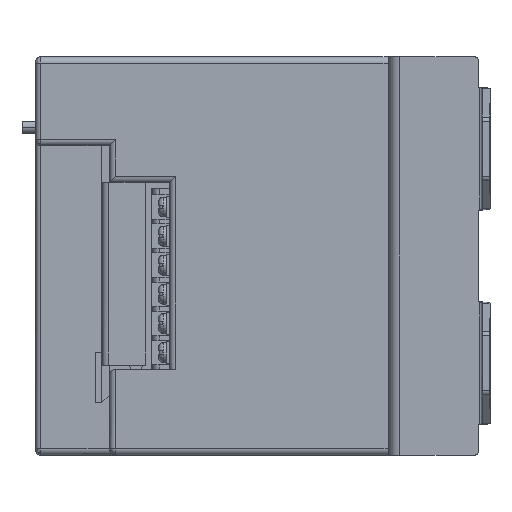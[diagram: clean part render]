
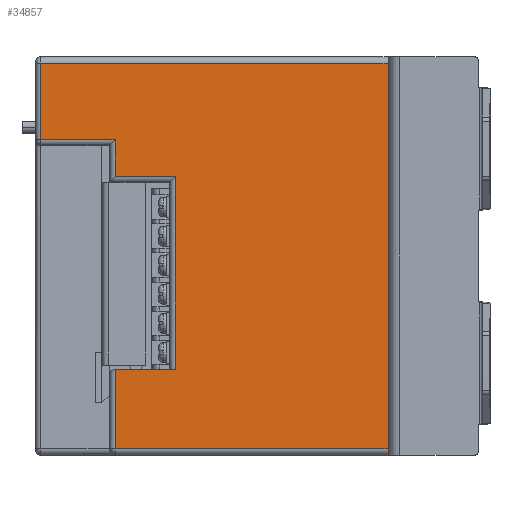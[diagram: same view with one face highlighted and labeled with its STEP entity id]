
A CAD part, left-side view. The second image highlights one B-rep face of the part: STEP entity #34857.
In plain terms, the highlighted planar face has unit normal (-1, 0, 0).
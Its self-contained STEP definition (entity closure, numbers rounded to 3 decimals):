
#503 = LINE ( 'NONE', #47137, #16502 ) ;
#1789 = DIRECTION ( 'NONE',  ( 0., 0., 1. ) ) ;
#1972 = CARTESIAN_POINT ( 'NONE',  ( -194.269, 81.353, 197.607 ) ) ;
#4997 = ORIENTED_EDGE ( 'NONE', *, *, #60277, .F. ) ;
#5102 = AXIS2_PLACEMENT_3D ( 'NONE', #30474, #53390, #30153 ) ;
#5256 = ORIENTED_EDGE ( 'NONE', *, *, #22977, .F. ) ;
#5616 = VERTEX_POINT ( 'NONE', #59180 ) ;
#5759 = VECTOR ( 'NONE', #21094, 1000. ) ;
#6404 = LINE ( 'NONE', #57595, #30422 ) ;
#6637 = CARTESIAN_POINT ( 'NONE',  ( -194.269, -33.647, 197.607 ) ) ;
#7313 = ORIENTED_EDGE ( 'NONE', *, *, #46161, .F. ) ;
#7765 = LINE ( 'NONE', #16984, #47623 ) ;
#8096 = VERTEX_POINT ( 'NONE', #56234 ) ;
#9457 = VERTEX_POINT ( 'NONE', #45867 ) ;
#9579 = VECTOR ( 'NONE', #1789, 1000. ) ;
#10552 = EDGE_LOOP ( 'NONE', ( #5256, #32384, #31850, #11113, #52570, #4997, #53705, #37549, #19727, #7313 ) ) ;
#11113 = ORIENTED_EDGE ( 'NONE', *, *, #21047, .F. ) ;
#11383 = DIRECTION ( 'NONE',  ( 0., 0., 1. ) ) ;
#11761 = LINE ( 'NONE', #21878, #22144 ) ;
#13123 = LINE ( 'NONE', #59098, #59493 ) ;
#15950 = CARTESIAN_POINT ( 'NONE',  ( -194.269, 55.353, 71.607 ) ) ;
#16414 = VECTOR ( 'NONE', #58044, 1000. ) ;
#16502 = VECTOR ( 'NONE', #29078, 1000. ) ;
#16984 = CARTESIAN_POINT ( 'NONE',  ( -194.269, 81.353, 97.607 ) ) ;
#18175 = CARTESIAN_POINT ( 'NONE',  ( -194.269, 81.353, 71.607 ) ) ;
#19282 = LINE ( 'NONE', #56655, #9579 ) ;
#19727 = ORIENTED_EDGE ( 'NONE', *, *, #20719, .F. ) ;
#20359 = CARTESIAN_POINT ( 'NONE',  ( -194.269, 55.353, 160.607 ) ) ;
#20718 = VERTEX_POINT ( 'NONE', #44001 ) ;
#20719 = EDGE_CURVE ( 'NONE', #9457, #23336, #54358, .T. ) ;
#21047 = EDGE_CURVE ( 'NONE', #59721, #8096, #13123, .T. ) ;
#21094 = DIRECTION ( 'NONE',  ( 0., 0., 1. ) ) ;
#21397 = CARTESIAN_POINT ( 'NONE',  ( -194.269, 55.353, 69.607 ) ) ;
#21878 = CARTESIAN_POINT ( 'NONE',  ( -194.269, 55.353, 69.607 ) ) ;
#22144 = VECTOR ( 'NONE', #40596, 1000. ) ;
#22977 = EDGE_CURVE ( 'NONE', #39785, #38221, #6404, .T. ) ;
#23336 = VERTEX_POINT ( 'NONE', #6637 ) ;
#24118 = VERTEX_POINT ( 'NONE', #20359 ) ;
#25384 = LINE ( 'NONE', #21397, #5759 ) ;
#26445 = FACE_OUTER_BOUND ( 'NONE', #10552, .T. ) ;
#26837 = VECTOR ( 'NONE', #11383, 1000. ) ;
#29078 = DIRECTION ( 'NONE',  ( 0., 1., 0. ) ) ;
#30153 = DIRECTION ( 'NONE',  ( 0., 0., -1. ) ) ;
#30422 = VECTOR ( 'NONE', #53608, 1000. ) ;
#30474 = CARTESIAN_POINT ( 'NONE',  ( -194.269, 81.353, 69.607 ) ) ;
#30763 = PLANE ( 'NONE',  #5102 ) ;
#31850 = ORIENTED_EDGE ( 'NONE', *, *, #59115, .F. ) ;
#32384 = ORIENTED_EDGE ( 'NONE', *, *, #42693, .F. ) ;
#34094 = CARTESIAN_POINT ( 'NONE',  ( -194.269, 35.753, 97.607 ) ) ;
#34857 = ADVANCED_FACE ( 'NONE', ( #26445 ), #30763, .F. ) ;
#35272 = DIRECTION ( 'NONE',  ( 0., 0., 1. ) ) ;
#35713 = DIRECTION ( 'NONE',  ( 0., -1., 0. ) ) ;
#36242 = LINE ( 'NONE', #48805, #26837 ) ;
#37549 = ORIENTED_EDGE ( 'NONE', *, *, #49829, .T. ) ;
#38105 = VERTEX_POINT ( 'NONE', #15950 ) ;
#38221 = VERTEX_POINT ( 'NONE', #43877 ) ;
#39785 = VERTEX_POINT ( 'NONE', #58786 ) ;
#40596 = DIRECTION ( 'NONE',  ( 0., 0., 1. ) ) ;
#42083 = DIRECTION ( 'NONE',  ( 0., 1., 0. ) ) ;
#42693 = EDGE_CURVE ( 'NONE', #24118, #39785, #11761, .T. ) ;
#43728 = EDGE_CURVE ( 'NONE', #5616, #59721, #7765, .T. ) ;
#43877 = CARTESIAN_POINT ( 'NONE',  ( -194.269, 79.853, 172.607 ) ) ;
#44001 = CARTESIAN_POINT ( 'NONE',  ( -194.269, -33.647, 71.607 ) ) ;
#45867 = CARTESIAN_POINT ( 'NONE',  ( -194.269, 79.853, 197.607 ) ) ;
#46161 = EDGE_CURVE ( 'NONE', #38221, #9457, #19282, .T. ) ;
#47137 = CARTESIAN_POINT ( 'NONE',  ( -194.269, 81.353, 160.607 ) ) ;
#47623 = VECTOR ( 'NONE', #35713, 1000. ) ;
#48805 = CARTESIAN_POINT ( 'NONE',  ( -194.269, -33.647, 134.607 ) ) ;
#49829 = EDGE_CURVE ( 'NONE', #20718, #23336, #36242, .T. ) ;
#52570 = ORIENTED_EDGE ( 'NONE', *, *, #43728, .F. ) ;
#53390 = DIRECTION ( 'NONE',  ( 1., 0., 0. ) ) ;
#53608 = DIRECTION ( 'NONE',  ( 0., 1., 0. ) ) ;
#53705 = ORIENTED_EDGE ( 'NONE', *, *, #55486, .F. ) ;
#54358 = LINE ( 'NONE', #1972, #16414 ) ;
#54541 = VECTOR ( 'NONE', #42083, 1000. ) ;
#55486 = EDGE_CURVE ( 'NONE', #20718, #38105, #60127, .T. ) ;
#56234 = CARTESIAN_POINT ( 'NONE',  ( -194.269, 35.753, 160.607 ) ) ;
#56655 = CARTESIAN_POINT ( 'NONE',  ( -194.269, 79.853, 69.607 ) ) ;
#57595 = CARTESIAN_POINT ( 'NONE',  ( -194.269, 81.353, 172.607 ) ) ;
#58044 = DIRECTION ( 'NONE',  ( 0., -1., 0. ) ) ;
#58786 = CARTESIAN_POINT ( 'NONE',  ( -194.269, 55.353, 172.607 ) ) ;
#59098 = CARTESIAN_POINT ( 'NONE',  ( -194.269, 35.753, 69.607 ) ) ;
#59115 = EDGE_CURVE ( 'NONE', #8096, #24118, #503, .T. ) ;
#59180 = CARTESIAN_POINT ( 'NONE',  ( -194.269, 55.353, 97.607 ) ) ;
#59493 = VECTOR ( 'NONE', #35272, 1000. ) ;
#59721 = VERTEX_POINT ( 'NONE', #34094 ) ;
#60127 = LINE ( 'NONE', #18175, #54541 ) ;
#60277 = EDGE_CURVE ( 'NONE', #38105, #5616, #25384, .T. ) ;
